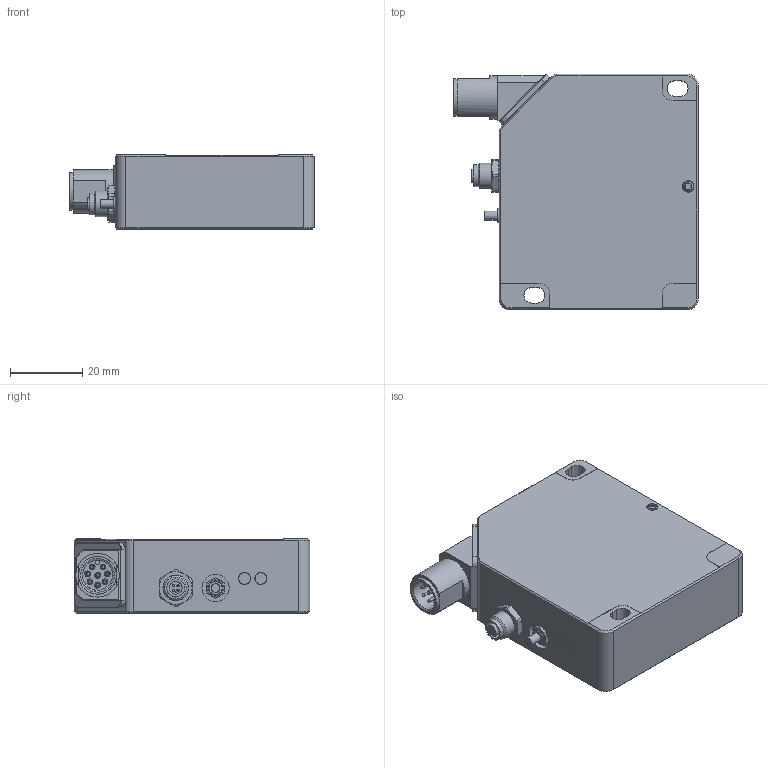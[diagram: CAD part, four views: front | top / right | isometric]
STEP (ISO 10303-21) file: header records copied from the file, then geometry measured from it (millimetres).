
FILE_DESCRIPTION(/* description */ (''),/* implementation_level */ '2;1');
FILE_NAME(/* name */ 'T:\E-Mail-Zeichnungen\STEP\L-LAS-LT-...-SL-P_1285_02.stp',/* time_stamp */ '2018-03-08T10:16:21+01:00',/* author */ ('simone.schrank'),/* organization */ (''),/* preprocessor_version */ 'ST-DEVELOPER v16.13',/* originating_system */ 'Autodesk Inventor 2018',/* authorisation */ '');
FILE_SCHEMA (('AUTOMOTIVE_DESIGN { 1 0 10303 214 3 1 1 }'));
Length unit declared in the file: millimetre
Products named in the file (1): Bauteil3
Bounding box: 67.56 x 65 x 20.6 mm (x, y, z)
Volume: 71640.2 mm3; surface area: 15920.3 mm2
Topology: 1 solids, 8 shells, 378 faces, 929 edges, 603 vertices
Faces by surface type: plane 172, cylinder 126, cone 68, sphere 8, torus 4
Full cylindrical faces by diameter (mm): 0.5 x4, 0.7 x8, 0.8 x8, 1 x8, 2.45 x1, 2.8 x2, 3.1 x1, 3.2 x2, 3.3 x2, 4 x1, 5 x1, 6 x1, 7 x2, 7.05 x1, 7.5 x1, 8 x1, 8.3 x1, 9 x1, 9.4 x1, 10.4 x1, 11 x1, 11.1 x1, 12 x1, 17.65 x2
Entity records: 10869 total; most frequent: CARTESIAN_POINT 2262, DIRECTION 1754, ORIENTED_EDGE 1500, EDGE_CURVE 750, AXIS2_PLACEMENT_3D 693, EDGE_LOOP 525, VERTEX_POINT 525, FACE_OUTER_BOUND 377
